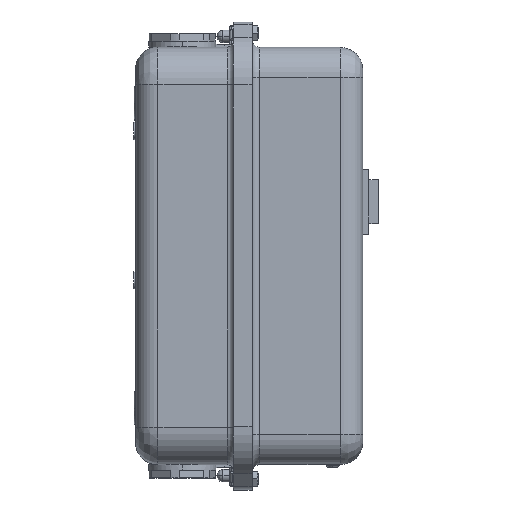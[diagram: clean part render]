
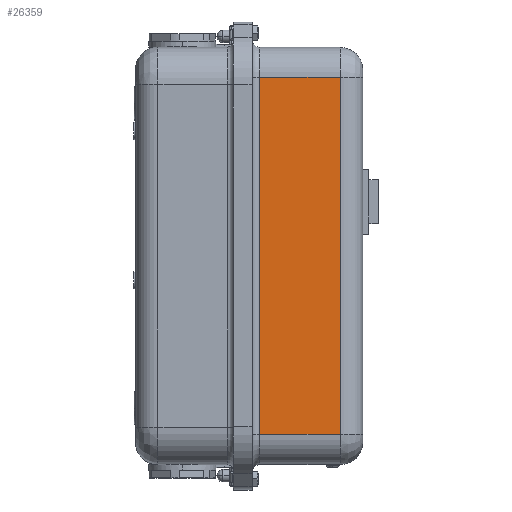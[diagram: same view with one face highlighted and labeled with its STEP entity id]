
A CAD part, top view. The second image highlights one B-rep face of the part: STEP entity #26359.
In plain terms, the highlighted planar face has unit normal (0, 0, 1).
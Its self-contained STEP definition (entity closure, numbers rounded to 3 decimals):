
#19680 = CYLINDRICAL_SURFACE('',#19681,5.);
#19681 = AXIS2_PLACEMENT_3D('',#19682,#19683,#19684);
#19682 = CARTESIAN_POINT('',(5.,119.5,85.));
#19683 = DIRECTION('',(0.,1.,0.));
#19684 = DIRECTION('',(0.,-0.,1.));
#25604 = CYLINDRICAL_SURFACE('',#25605,15.);
#25605 = AXIS2_PLACEMENT_3D('',#25606,#25607,#25608);
#25606 = CARTESIAN_POINT('',(59.,-119.5,65.));
#25607 = DIRECTION('',(-0.,1.,0.));
#25608 = DIRECTION('',(0.,0.,1.));
#26247 = CYLINDRICAL_SURFACE('',#26248,20.);
#26248 = AXIS2_PLACEMENT_3D('',#26249,#26250,#26251);
#26249 = CARTESIAN_POINT('',(74.,119.5,60.));
#26250 = DIRECTION('',(-1.,-0.,-0.));
#26251 = DIRECTION('',(-0.,0.,1.));
#26285 = EDGE_CURVE('',#26286,#26288,#26290,.T.);
#26286 = VERTEX_POINT('',#26287);
#26287 = CARTESIAN_POINT('',(59.,119.5,80.));
#26288 = VERTEX_POINT('',#26289);
#26289 = CARTESIAN_POINT('',(5.,119.5,80.));
#26290 = SURFACE_CURVE('',#26291,(#26295,#26302),.PCURVE_S1.);
#26291 = LINE('',#26292,#26293);
#26292 = CARTESIAN_POINT('',(74.,119.5,80.));
#26293 = VECTOR('',#26294,1.);
#26294 = DIRECTION('',(-1.,-0.,-0.));
#26295 = PCURVE('',#26247,#26296);
#26296 = DEFINITIONAL_REPRESENTATION('',(#26297),#26301);
#26297 = LINE('',#26298,#26299);
#26298 = CARTESIAN_POINT('',(0.,0.));
#26299 = VECTOR('',#26300,1.);
#26300 = DIRECTION('',(0.,1.));
#26301 = ( GEOMETRIC_REPRESENTATION_CONTEXT(2) 
PARAMETRIC_REPRESENTATION_CONTEXT() REPRESENTATION_CONTEXT('2D SPACE',''
  ) );
#26302 = PCURVE('',#26303,#26308);
#26303 = PLANE('',#26304);
#26304 = AXIS2_PLACEMENT_3D('',#26305,#26306,#26307);
#26305 = CARTESIAN_POINT('',(74.,119.5,80.));
#26306 = DIRECTION('',(0.,0.,-1.));
#26307 = DIRECTION('',(-1.,0.,-0.));
#26308 = DEFINITIONAL_REPRESENTATION('',(#26309),#26313);
#26309 = LINE('',#26310,#26311);
#26310 = CARTESIAN_POINT('',(0.,0.));
#26311 = VECTOR('',#26312,1.);
#26312 = DIRECTION('',(1.,0.));
#26313 = ( GEOMETRIC_REPRESENTATION_CONTEXT(2) 
PARAMETRIC_REPRESENTATION_CONTEXT() REPRESENTATION_CONTEXT('2D SPACE',''
  ) );
#26359 = ADVANCED_FACE('',(#26360),#26303,.F.);
#26360 = FACE_BOUND('',#26361,.T.);
#26361 = EDGE_LOOP('',(#26362,#26392,#26413,#26414));
#26362 = ORIENTED_EDGE('',*,*,#26363,.F.);
#26363 = EDGE_CURVE('',#26364,#26366,#26368,.T.);
#26364 = VERTEX_POINT('',#26365);
#26365 = CARTESIAN_POINT('',(59.,-119.5,80.));
#26366 = VERTEX_POINT('',#26367);
#26367 = CARTESIAN_POINT('',(5.,-119.5,80.));
#26368 = SURFACE_CURVE('',#26369,(#26373,#26380),.PCURVE_S1.);
#26369 = LINE('',#26370,#26371);
#26370 = CARTESIAN_POINT('',(74.,-119.5,80.));
#26371 = VECTOR('',#26372,1.);
#26372 = DIRECTION('',(-1.,-0.,-0.));
#26373 = PCURVE('',#26303,#26374);
#26374 = DEFINITIONAL_REPRESENTATION('',(#26375),#26379);
#26375 = LINE('',#26376,#26377);
#26376 = CARTESIAN_POINT('',(-0.,-239.));
#26377 = VECTOR('',#26378,1.);
#26378 = DIRECTION('',(1.,0.));
#26379 = ( GEOMETRIC_REPRESENTATION_CONTEXT(2) 
PARAMETRIC_REPRESENTATION_CONTEXT() REPRESENTATION_CONTEXT('2D SPACE',''
  ) );
#26380 = PCURVE('',#26381,#26386);
#26381 = CYLINDRICAL_SURFACE('',#26382,20.);
#26382 = AXIS2_PLACEMENT_3D('',#26383,#26384,#26385);
#26383 = CARTESIAN_POINT('',(74.,-119.5,60.));
#26384 = DIRECTION('',(-1.,-0.,-0.));
#26385 = DIRECTION('',(-0.,0.,1.));
#26386 = DEFINITIONAL_REPRESENTATION('',(#26387),#26391);
#26387 = LINE('',#26388,#26389);
#26388 = CARTESIAN_POINT('',(6.283,0.));
#26389 = VECTOR('',#26390,1.);
#26390 = DIRECTION('',(0.,1.));
#26391 = ( GEOMETRIC_REPRESENTATION_CONTEXT(2) 
PARAMETRIC_REPRESENTATION_CONTEXT() REPRESENTATION_CONTEXT('2D SPACE',''
  ) );
#26392 = ORIENTED_EDGE('',*,*,#26393,.T.);
#26393 = EDGE_CURVE('',#26364,#26286,#26394,.T.);
#26394 = SURFACE_CURVE('',#26395,(#26399,#26406),.PCURVE_S1.);
#26395 = LINE('',#26396,#26397);
#26396 = CARTESIAN_POINT('',(59.,119.5,80.));
#26397 = VECTOR('',#26398,1.);
#26398 = DIRECTION('',(-0.,1.,-0.));
#26399 = PCURVE('',#26303,#26400);
#26400 = DEFINITIONAL_REPRESENTATION('',(#26401),#26405);
#26401 = LINE('',#26402,#26403);
#26402 = CARTESIAN_POINT('',(15.,0.));
#26403 = VECTOR('',#26404,1.);
#26404 = DIRECTION('',(0.,1.));
#26405 = ( GEOMETRIC_REPRESENTATION_CONTEXT(2) 
PARAMETRIC_REPRESENTATION_CONTEXT() REPRESENTATION_CONTEXT('2D SPACE',''
  ) );
#26406 = PCURVE('',#25604,#26407);
#26407 = DEFINITIONAL_REPRESENTATION('',(#26408),#26412);
#26408 = LINE('',#26409,#26410);
#26409 = CARTESIAN_POINT('',(0.,239.));
#26410 = VECTOR('',#26411,1.);
#26411 = DIRECTION('',(0.,1.));
#26412 = ( GEOMETRIC_REPRESENTATION_CONTEXT(2) 
PARAMETRIC_REPRESENTATION_CONTEXT() REPRESENTATION_CONTEXT('2D SPACE',''
  ) );
#26413 = ORIENTED_EDGE('',*,*,#26285,.T.);
#26414 = ORIENTED_EDGE('',*,*,#26415,.T.);
#26415 = EDGE_CURVE('',#26288,#26366,#26416,.T.);
#26416 = SURFACE_CURVE('',#26417,(#26421,#26428),.PCURVE_S1.);
#26417 = LINE('',#26418,#26419);
#26418 = CARTESIAN_POINT('',(5.,-119.5,80.));
#26419 = VECTOR('',#26420,1.);
#26420 = DIRECTION('',(0.,-1.,0.));
#26421 = PCURVE('',#26303,#26422);
#26422 = DEFINITIONAL_REPRESENTATION('',(#26423),#26427);
#26423 = LINE('',#26424,#26425);
#26424 = CARTESIAN_POINT('',(69.,-239.));
#26425 = VECTOR('',#26426,1.);
#26426 = DIRECTION('',(-0.,-1.));
#26427 = ( GEOMETRIC_REPRESENTATION_CONTEXT(2) 
PARAMETRIC_REPRESENTATION_CONTEXT() REPRESENTATION_CONTEXT('2D SPACE',''
  ) );
#26428 = PCURVE('',#19680,#26429);
#26429 = DEFINITIONAL_REPRESENTATION('',(#26430),#26434);
#26430 = LINE('',#26431,#26432);
#26431 = CARTESIAN_POINT('',(3.142,-239.));
#26432 = VECTOR('',#26433,1.);
#26433 = DIRECTION('',(0.,-1.));
#26434 = ( GEOMETRIC_REPRESENTATION_CONTEXT(2) 
PARAMETRIC_REPRESENTATION_CONTEXT() REPRESENTATION_CONTEXT('2D SPACE',''
  ) );
